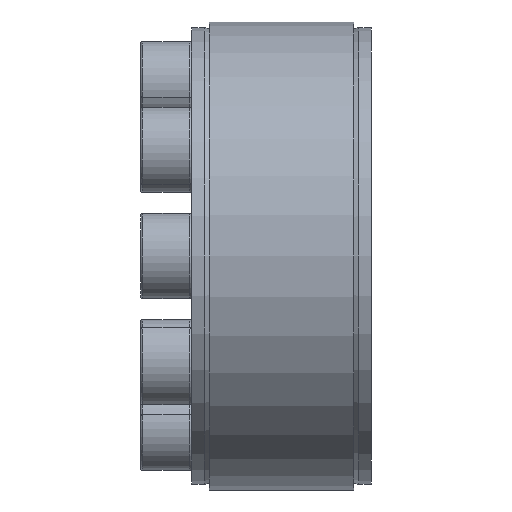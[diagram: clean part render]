
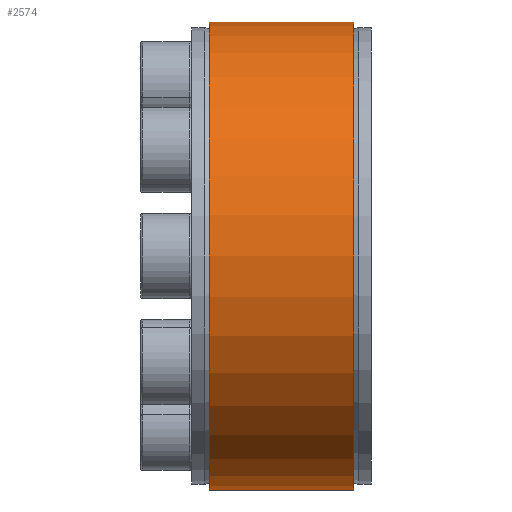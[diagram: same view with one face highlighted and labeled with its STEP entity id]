
A CAD part, front view. The second image highlights one B-rep face of the part: STEP entity #2574.
In plain terms, the highlighted cylindrical face has radius 27.5 mm (diameter 55 mm), a partial arc.
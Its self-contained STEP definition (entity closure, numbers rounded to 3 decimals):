
#235 = DIRECTION ( 'NONE',  ( -1., 0., 0. ) ) ;
#836 = CARTESIAN_POINT ( 'NONE',  ( 8.5, -0.125, -27.5 ) ) ;
#978 = EDGE_CURVE ( 'NONE', #3907, #7430, #8189, .T. ) ;
#1356 = CYLINDRICAL_SURFACE ( 'NONE', #4964, 27.5 ) ;
#1377 = DIRECTION ( 'NONE',  ( 0., 0., 1. ) ) ;
#1512 = VECTOR ( 'NONE', #8022, 1000. ) ;
#1686 = FACE_OUTER_BOUND ( 'NONE', #5803, .T. ) ;
#1784 = CARTESIAN_POINT ( 'NONE',  ( -8.5, -0.125, 27.5 ) ) ;
#1949 = DIRECTION ( 'NONE',  ( -1., 0., 0. ) ) ;
#2059 = VERTEX_POINT ( 'NONE', #836 ) ;
#2255 = CARTESIAN_POINT ( 'NONE',  ( -10.57, -0.125, 0. ) ) ;
#2284 = DIRECTION ( 'NONE',  ( 0., 0., 1. ) ) ;
#2306 = DIRECTION ( 'NONE',  ( -1., 0., 0. ) ) ;
#2324 = CARTESIAN_POINT ( 'NONE',  ( -10.57, -0.125, 27.5 ) ) ;
#2574 = ADVANCED_FACE ( 'NONE', ( #1686 ), #1356, .T. ) ;
#2576 = CARTESIAN_POINT ( 'NONE',  ( -8.5, -0.125, -27.5 ) ) ;
#2632 = DIRECTION ( 'NONE',  ( -1., 0., 0. ) ) ;
#2862 = CARTESIAN_POINT ( 'NONE',  ( 8.5, -0.125, 0. ) ) ;
#3907 = VERTEX_POINT ( 'NONE', #8617 ) ;
#4145 = CIRCLE ( 'NONE', #4337, 27.5 ) ;
#4308 = VERTEX_POINT ( 'NONE', #2576 ) ;
#4337 = AXIS2_PLACEMENT_3D ( 'NONE', #2862, #235, #5671 ) ;
#4634 = VECTOR ( 'NONE', #2306, 1000. ) ;
#4918 = ORIENTED_EDGE ( 'NONE', *, *, #7789, .F. ) ;
#4964 = AXIS2_PLACEMENT_3D ( 'NONE', #2255, #1949, #2284 ) ;
#5126 = LINE ( 'NONE', #7997, #1512 ) ;
#5210 = EDGE_CURVE ( 'NONE', #2059, #4308, #5126, .T. ) ;
#5431 = ORIENTED_EDGE ( 'NONE', *, *, #7216, .T. ) ;
#5631 = ORIENTED_EDGE ( 'NONE', *, *, #978, .T. ) ;
#5671 = DIRECTION ( 'NONE',  ( 0., 0., 1. ) ) ;
#5803 = EDGE_LOOP ( 'NONE', ( #6616, #5431, #5631, #4918 ) ) ;
#6353 = AXIS2_PLACEMENT_3D ( 'NONE', #7400, #2632, #1377 ) ;
#6616 = ORIENTED_EDGE ( 'NONE', *, *, #5210, .F. ) ;
#7216 = EDGE_CURVE ( 'NONE', #2059, #3907, #4145, .T. ) ;
#7400 = CARTESIAN_POINT ( 'NONE',  ( -8.5, -0.125, 0. ) ) ;
#7430 = VERTEX_POINT ( 'NONE', #1784 ) ;
#7789 = EDGE_CURVE ( 'NONE', #4308, #7430, #8398, .T. ) ;
#7997 = CARTESIAN_POINT ( 'NONE',  ( -10.57, -0.125, -27.5 ) ) ;
#8022 = DIRECTION ( 'NONE',  ( -1., 0., 0. ) ) ;
#8189 = LINE ( 'NONE', #2324, #4634 ) ;
#8398 = CIRCLE ( 'NONE', #6353, 27.5 ) ;
#8617 = CARTESIAN_POINT ( 'NONE',  ( 8.5, -0.125, 27.5 ) ) ;
